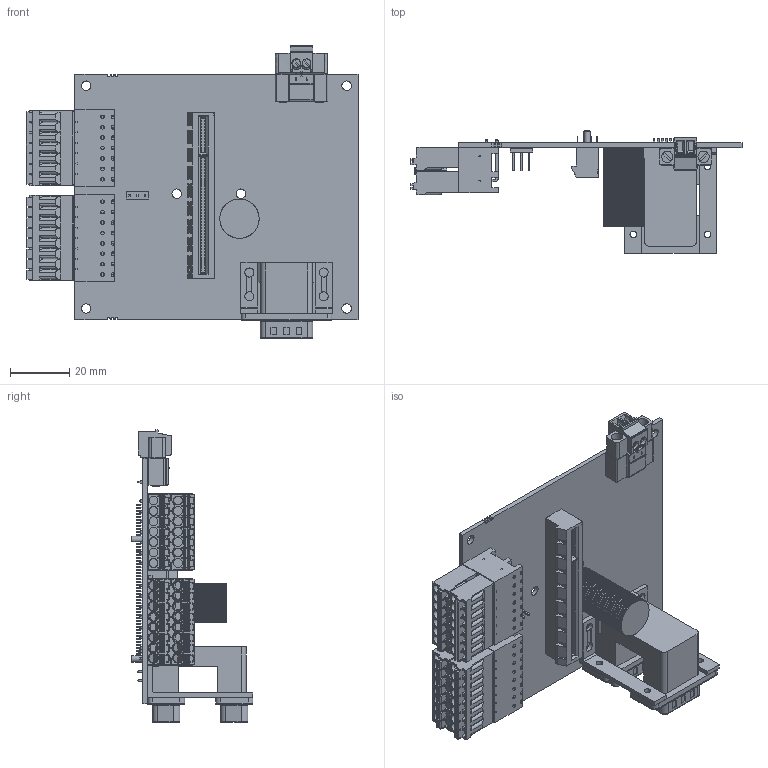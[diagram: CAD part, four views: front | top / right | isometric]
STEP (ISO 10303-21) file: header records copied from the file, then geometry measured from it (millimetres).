
FILE_DESCRIPTION((''),'1');
FILE_NAME('C:/Users/mulloa/Desktop/Temp/LMM-INT1-X.stp', '2019-03-12T15:11:38',(''), (''), 'KCM Version 1.1.0.0', 'KeyCreator', '');
FILE_SCHEMA(('AUTOMOTIVE_DESIGN'));
Length unit declared in the file: inch
Bounding box: 111.66 x 41.02 x 98.5 mm (x, y, z)
Volume: 44341.1 mm3; surface area: 53166.1 mm2
Topology: 10 solids, 176 shells, 6925 faces, 18977 edges, 12575 vertices
Faces by surface type: plane 5056, cylinder 1284, bspline 371, cone 164, torus 50
Full cylindrical faces by diameter (mm): 0.889 x18, 1.6 x28, 1.8 x2, 2.15 x1, 2.261 x8, 2.4 x2, 2.5 x2, 3 x30, 3.048 x8, 3.2 x6, 3.792 x2
Entity records: 263899 total; most frequent: CARTESIAN_POINT 58728, ORIENTED_EDGE 37208, DIRECTION 34940, EDGE_CURVE 18976, VECTOR 14666, LINE 14666, VERTEX_POINT 12571, AXIS2_PLACEMENT_3D 10137
